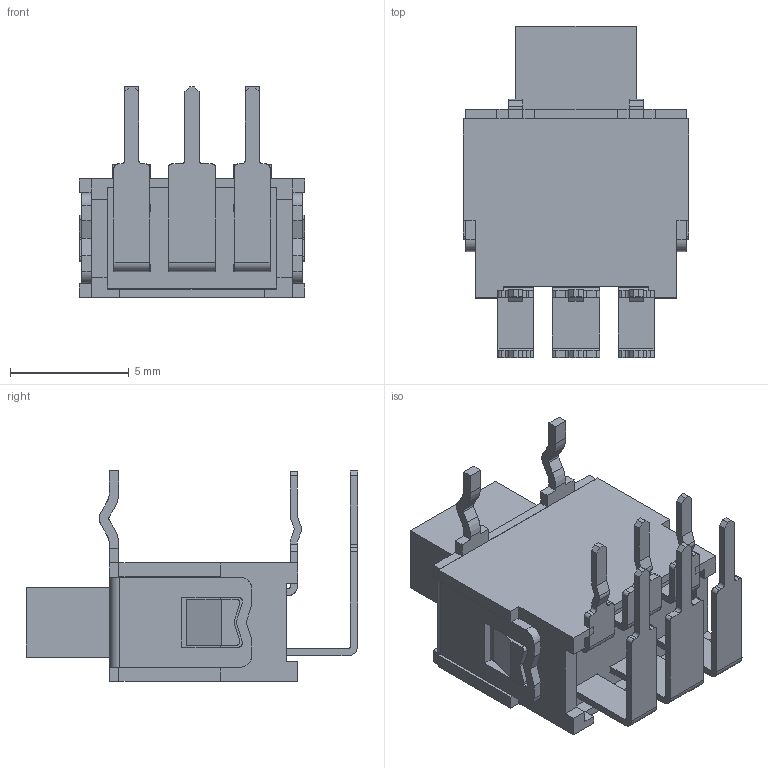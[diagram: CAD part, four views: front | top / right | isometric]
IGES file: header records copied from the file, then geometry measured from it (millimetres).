
Start section: SolidWorks IGES file using analytic representation for surfaces
Global section: file name: G:\重要文件\成品圖\3D圖電子黨(內製)\5系列\5se\5SED1S105M6RES.IGS; native system: SolidWorks 2012; preprocessor: SolidWorks 2012; author: 970704; date: 190522.141137; units: millimetre
Bounding box: 9.5 x 13.96 x 8.9 mm (x, y, z)
Surface area: 1261.9 mm2 (no closed solid volume)
Topology: 0 solids, 0 shells, 484 faces, 3179 edges, 3166 vertices
Faces by surface type: bspline 373, revolution 111
